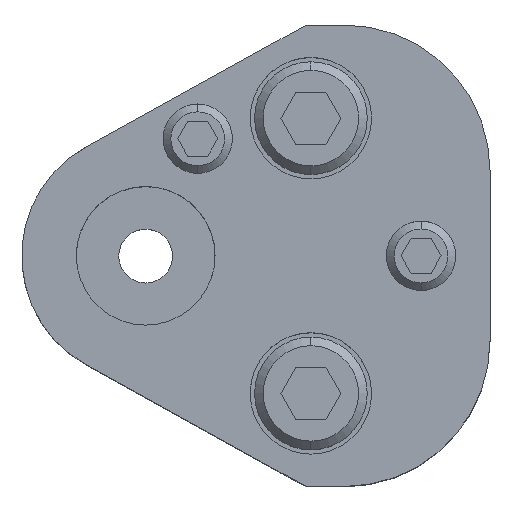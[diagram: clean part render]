
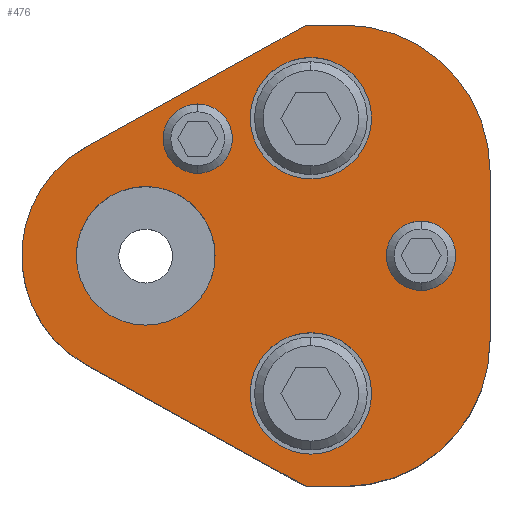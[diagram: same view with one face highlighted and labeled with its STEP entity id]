
A CAD part, top view. The second image highlights one B-rep face of the part: STEP entity #476.
In plain terms, the highlighted planar face has unit normal (0, 0, 1).
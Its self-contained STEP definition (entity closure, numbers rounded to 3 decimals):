
#213=FACE_BOUND('',#843,.T.);
#214=FACE_BOUND('',#844,.T.);
#215=FACE_BOUND('',#845,.T.);
#216=FACE_BOUND('',#846,.T.);
#217=FACE_BOUND('',#847,.T.);
#218=FACE_BOUND('',#848,.T.);
#300=CIRCLE('',#2767,16.8);
#302=CIRCLE('',#2771,16.8);
#304=CIRCLE('',#2776,4.);
#306=CIRCLE('',#2779,4.);
#308=CIRCLE('',#2782,4.);
#310=CIRCLE('',#2785,4.);
#320=CIRCLE('',#2800,14.3);
#321=CIRCLE('',#2801,7.);
#322=CIRCLE('',#2802,7.);
#323=CIRCLE('',#2803,7.);
#324=CIRCLE('',#2804,7.);
#325=CIRCLE('',#2805,8.);
#326=CIRCLE('',#2806,8.);
#476=ADVANCED_FACE('',(#213,#214,#215,#216,#217,#218),#592,.T.);
#592=PLANE('',#2807);
#843=EDGE_LOOP('',(#1250,#1251,#1252,#1253,#1254,#1255,#1256,#1257));
#844=EDGE_LOOP('',(#1258,#1259));
#845=EDGE_LOOP('',(#1260,#1261));
#846=EDGE_LOOP('',(#1262,#1263));
#847=EDGE_LOOP('',(#1264,#1265));
#848=EDGE_LOOP('',(#1266,#1267));
#1250=ORIENTED_EDGE('',*,*,#2066,.T.);
#1251=ORIENTED_EDGE('',*,*,#2024,.T.);
#1252=ORIENTED_EDGE('',*,*,#2028,.T.);
#1253=ORIENTED_EDGE('',*,*,#2031,.T.);
#1254=ORIENTED_EDGE('',*,*,#2034,.T.);
#1255=ORIENTED_EDGE('',*,*,#2037,.T.);
#1256=ORIENTED_EDGE('',*,*,#2040,.T.);
#1257=ORIENTED_EDGE('',*,*,#2067,.T.);
#1258=ORIENTED_EDGE('',*,*,#2068,.F.);
#1259=ORIENTED_EDGE('',*,*,#2069,.F.);
#1260=ORIENTED_EDGE('',*,*,#2070,.F.);
#1261=ORIENTED_EDGE('',*,*,#2071,.F.);
#1262=ORIENTED_EDGE('',*,*,#2052,.F.);
#1263=ORIENTED_EDGE('',*,*,#2048,.F.);
#1264=ORIENTED_EDGE('',*,*,#2046,.F.);
#1265=ORIENTED_EDGE('',*,*,#2042,.F.);
#1266=ORIENTED_EDGE('',*,*,#2072,.T.);
#1267=ORIENTED_EDGE('',*,*,#2073,.T.);
#1749=VERTEX_POINT('',#4092);
#1750=VERTEX_POINT('',#4094);
#1753=VERTEX_POINT('',#4101);
#1755=VERTEX_POINT('',#4107);
#1757=VERTEX_POINT('',#4113);
#1759=VERTEX_POINT('',#4119);
#1761=VERTEX_POINT('',#4125);
#1762=VERTEX_POINT('',#4130);
#1763=VERTEX_POINT('',#4131);
#1766=VERTEX_POINT('',#4142);
#1767=VERTEX_POINT('',#4143);
#1778=VERTEX_POINT('',#4178);
#1779=VERTEX_POINT('',#4181);
#1780=VERTEX_POINT('',#4182);
#1781=VERTEX_POINT('',#4185);
#1782=VERTEX_POINT('',#4186);
#1783=VERTEX_POINT('',#4189);
#1784=VERTEX_POINT('',#4190);
#2024=EDGE_CURVE('',#1750,#1749,#2332,.T.);
#2028=EDGE_CURVE('',#1749,#1753,#300,.T.);
#2031=EDGE_CURVE('',#1753,#1755,#2337,.T.);
#2034=EDGE_CURVE('',#1755,#1757,#302,.T.);
#2037=EDGE_CURVE('',#1757,#1759,#2341,.T.);
#2040=EDGE_CURVE('',#1759,#1761,#2344,.T.);
#2042=EDGE_CURVE('',#1762,#1763,#304,.T.);
#2046=EDGE_CURVE('',#1763,#1762,#306,.T.);
#2048=EDGE_CURVE('',#1766,#1767,#308,.T.);
#2052=EDGE_CURVE('',#1767,#1766,#310,.T.);
#2066=EDGE_CURVE('',#1778,#1750,#2354,.T.);
#2067=EDGE_CURVE('',#1761,#1778,#320,.T.);
#2068=EDGE_CURVE('',#1779,#1780,#321,.T.);
#2069=EDGE_CURVE('',#1780,#1779,#322,.T.);
#2070=EDGE_CURVE('',#1781,#1782,#323,.T.);
#2071=EDGE_CURVE('',#1782,#1781,#324,.T.);
#2072=EDGE_CURVE('',#1783,#1784,#325,.T.);
#2073=EDGE_CURVE('',#1784,#1783,#326,.T.);
#2332=LINE('',#4093,#2533);
#2337=LINE('',#4108,#2538);
#2341=LINE('',#4120,#2542);
#2344=LINE('',#4126,#2545);
#2354=LINE('',#4177,#2555);
#2533=VECTOR('',#3243,1.);
#2538=VECTOR('',#3256,1.);
#2542=VECTOR('',#3268,1.);
#2545=VECTOR('',#3273,1.);
#2555=VECTOR('',#3333,1.);
#2767=AXIS2_PLACEMENT_3D('',#4102,#3249,#3250);
#2771=AXIS2_PLACEMENT_3D('',#4114,#3261,#3262);
#2776=AXIS2_PLACEMENT_3D('',#4129,#3277,#3278);
#2779=AXIS2_PLACEMENT_3D('',#4138,#3285,#3286);
#2782=AXIS2_PLACEMENT_3D('',#4141,#3291,#3292);
#2785=AXIS2_PLACEMENT_3D('',#4150,#3299,#3300);
#2800=AXIS2_PLACEMENT_3D('',#4179,#3334,#3335);
#2801=AXIS2_PLACEMENT_3D('',#4180,#3336,#3337);
#2802=AXIS2_PLACEMENT_3D('',#4183,#3338,#3339);
#2803=AXIS2_PLACEMENT_3D('',#4184,#3340,#3341);
#2804=AXIS2_PLACEMENT_3D('',#4187,#3342,#3343);
#2805=AXIS2_PLACEMENT_3D('',#4188,#3344,#3345);
#2806=AXIS2_PLACEMENT_3D('',#4191,#3346,#3347);
#2807=AXIS2_PLACEMENT_3D('',#4192,#3348,#3349);
#3243=DIRECTION('',(1.,0.,0.));
#3249=DIRECTION('',(0.,0.,1.));
#3250=DIRECTION('',(-0.707,0.707,0.));
#3256=DIRECTION('',(0.,1.,0.));
#3261=DIRECTION('',(0.,0.,1.));
#3262=DIRECTION('',(-0.707,-0.707,0.));
#3268=DIRECTION('',(-1.,0.,0.));
#3273=DIRECTION('',(-0.875,-0.485,0.));
#3277=DIRECTION('',(0.,0.,1.));
#3278=DIRECTION('',(-1.,0.,0.));
#3285=DIRECTION('',(0.,0.,1.));
#3286=DIRECTION('',(1.,0.,0.));
#3291=DIRECTION('',(0.,0.,1.));
#3292=DIRECTION('',(-1.,0.,0.));
#3299=DIRECTION('',(0.,0.,1.));
#3300=DIRECTION('',(1.,0.,0.));
#3333=DIRECTION('',(0.875,-0.485,0.));
#3334=DIRECTION('',(0.,0.,1.));
#3335=DIRECTION('',(1.,0.,0.));
#3336=DIRECTION('',(0.,0.,1.));
#3337=DIRECTION('',(1.,0.,0.));
#3338=DIRECTION('',(0.,0.,1.));
#3339=DIRECTION('',(-1.,0.,0.));
#3340=DIRECTION('',(0.,0.,1.));
#3341=DIRECTION('',(1.,0.,0.));
#3342=DIRECTION('',(0.,0.,1.));
#3343=DIRECTION('',(-1.,0.,0.));
#3344=DIRECTION('',(0.,0.,-1.));
#3345=DIRECTION('',(-1.,0.,0.));
#3346=DIRECTION('',(0.,0.,-1.));
#3347=DIRECTION('',(1.,0.,0.));
#3348=DIRECTION('',(0.,0.,1.));
#3349=DIRECTION('',(-0.875,0.485,0.));
#4092=CARTESIAN_POINT('',(22.9,-26.6,30.));
#4093=CARTESIAN_POINT('',(18.492,-26.6,30.));
#4094=CARTESIAN_POINT('',(18.492,-26.6,30.));
#4101=CARTESIAN_POINT('',(39.7,-9.8,30.));
#4102=CARTESIAN_POINT('',(22.9,-9.8,30.));
#4107=CARTESIAN_POINT('',(39.7,9.8,30.));
#4108=CARTESIAN_POINT('',(39.7,9.8,30.));
#4113=CARTESIAN_POINT('',(22.9,26.6,30.));
#4114=CARTESIAN_POINT('',(22.9,9.8,30.));
#4119=CARTESIAN_POINT('',(18.492,26.6,30.));
#4120=CARTESIAN_POINT('',(18.492,26.6,30.));
#4125=CARTESIAN_POINT('',(-6.933,12.507,30.));
#4126=CARTESIAN_POINT('',(18.492,26.6,30.));
#4129=CARTESIAN_POINT('',(6.,13.5,30.));
#4130=CARTESIAN_POINT('',(6.,9.5,30.));
#4131=CARTESIAN_POINT('',(6.,17.5,30.));
#4138=CARTESIAN_POINT('',(6.,13.5,30.));
#4141=CARTESIAN_POINT('',(31.75,0.,30.));
#4142=CARTESIAN_POINT('',(31.75,-4.,30.));
#4143=CARTESIAN_POINT('',(31.75,4.,30.));
#4150=CARTESIAN_POINT('',(31.75,0.,30.));
#4177=CARTESIAN_POINT('',(18.492,-26.6,30.));
#4178=CARTESIAN_POINT('',(-6.933,-12.507,30.));
#4179=CARTESIAN_POINT('',(0.,0.,30.));
#4180=CARTESIAN_POINT('',(19.05,15.87,30.));
#4181=CARTESIAN_POINT('',(19.05,22.87,30.));
#4182=CARTESIAN_POINT('',(19.05,8.87,30.));
#4183=CARTESIAN_POINT('',(19.05,15.87,30.));
#4184=CARTESIAN_POINT('',(19.05,-15.87,30.));
#4185=CARTESIAN_POINT('',(19.05,-8.87,30.));
#4186=CARTESIAN_POINT('',(19.05,-22.87,30.));
#4187=CARTESIAN_POINT('',(19.05,-15.87,30.));
#4188=CARTESIAN_POINT('',(0.,0.,30.));
#4189=CARTESIAN_POINT('',(0.,8.,30.));
#4190=CARTESIAN_POINT('',(0.,-8.,30.));
#4191=CARTESIAN_POINT('',(0.,0.,30.));
#4192=CARTESIAN_POINT('',(-6.933,-12.507,30.));
